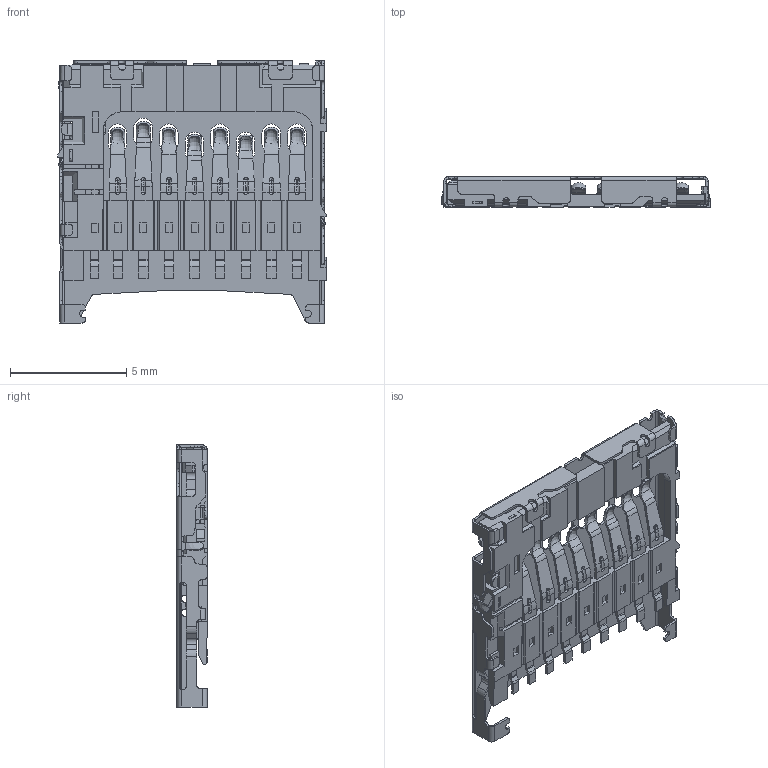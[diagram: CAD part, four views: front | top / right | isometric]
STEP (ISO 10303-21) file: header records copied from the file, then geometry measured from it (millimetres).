
FILE_DESCRIPTION(('CATIA V5 STEP Exchange'),'2;1');
FILE_NAME('C:\Users\Administrator\Desktop\1060806AR001 (TF CARD CONN 9P WITH SW 1.32H).stp','2022-10-14T07:20:29+00:00',('none'),('none'),'CATIA Version 5 Release 17 (IN-10)','CATIA V5 STEP AP203','none');
FILE_SCHEMA(('CONFIG_CONTROL_DESIGN'));
Products named in the file (1): APLL6-01_ASM
Bounding box: 11.53 x 1.3 x 11.25 mm (x, y, z)
Surface area: 553.3 mm2
Topology: 4 solids, 33 shells, 1804 faces, 4904 edges, 3107 vertices
Faces by surface type: plane 930, cylinder 555, bspline 221, revolution 75, extrusion 23
Entity records: 71489 total; most frequent: CARTESIAN_POINT 29681, ORIENTED_EDGE 9690, DIRECTION 6603, EDGE_CURVE 4898, VERTEX_POINT 3066, VECTOR 2863, LINE 2840, AXIS2_PLACEMENT_3D 2181
